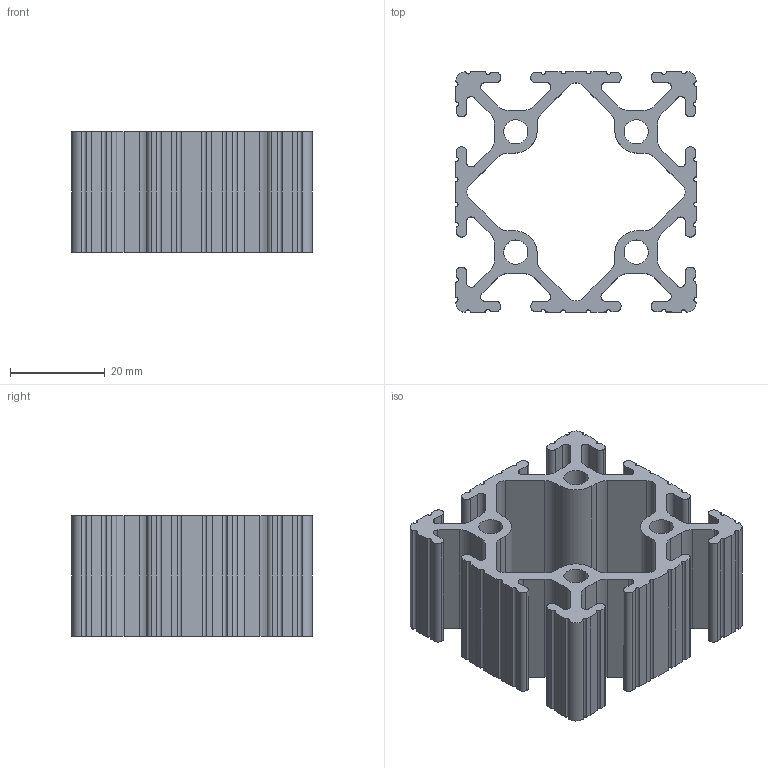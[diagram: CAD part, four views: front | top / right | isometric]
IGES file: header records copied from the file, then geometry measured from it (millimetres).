
Global section: file name: C:\Documents and Settings\Administrator\Desktop\Transfer Temp\8020-2020.igs; native system: AutoDesk Inventor R2.0 ; preprocessor: AutoDesk Inventor Iges Exporter R2.0; author: No Author specified; organization: No Organization specified; date: 20011227.204315; units: inch
Bounding box: 50.8 x 50.8 x 25.4 mm (x, y, z)
Surface area: 17340 mm2 (no closed solid volume)
Topology: 0 solids, 0 shells, 237 faces, 1410 edges, 1410 vertices
Faces by surface type: revolution 127, bspline 110
